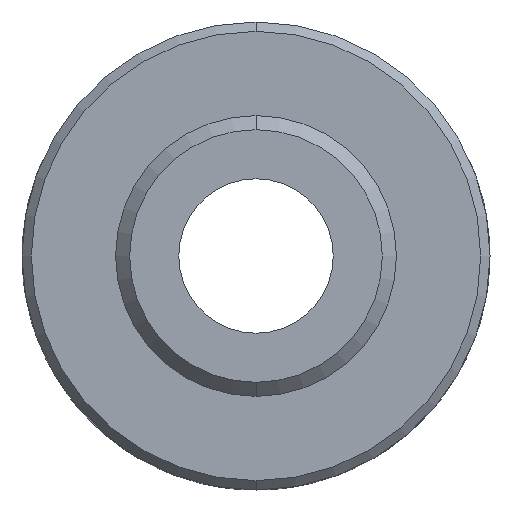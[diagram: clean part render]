
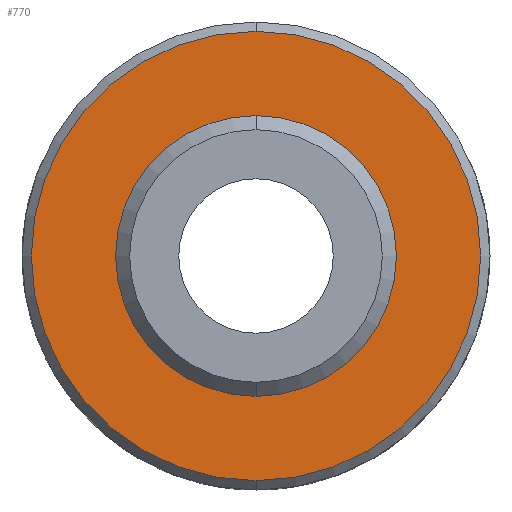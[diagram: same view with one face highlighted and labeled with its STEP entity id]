
A CAD part, front view. The second image highlights one B-rep face of the part: STEP entity #770.
In plain terms, the highlighted planar face has unit normal (0, -1, 0).
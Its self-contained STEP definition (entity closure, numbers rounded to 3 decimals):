
#8 = PLANE ( 'NONE',  #55 ) ;
#51 = CARTESIAN_POINT ( 'NONE',  ( 0., 0., 0. ) ) ;
#55 = AXIS2_PLACEMENT_3D ( 'NONE', #482, #739, #477 ) ;
#74 = CIRCLE ( 'NONE', #523, 4.8 ) ;
#131 = CIRCLE ( 'NONE', #536, 2.5 ) ;
#140 = VERTEX_POINT ( 'NONE', #720 ) ;
#142 = FACE_BOUND ( 'NONE', #864, .T. ) ;
#178 = VERTEX_POINT ( 'NONE', #592 ) ;
#185 = EDGE_CURVE ( 'NONE', #140, #642, #131, .T. ) ;
#225 = EDGE_CURVE ( 'NONE', #178, #323, #481, .T. ) ;
#250 = ORIENTED_EDGE ( 'NONE', *, *, #185, .F. ) ;
#260 = DIRECTION ( 'NONE',  ( 0., -1., 0. ) ) ;
#264 = DIRECTION ( 'NONE',  ( 0., -1., 0. ) ) ;
#287 = ORIENTED_EDGE ( 'NONE', *, *, #225, .T. ) ;
#296 = CIRCLE ( 'NONE', #411, 2.5 ) ;
#323 = VERTEX_POINT ( 'NONE', #429 ) ;
#411 = AXIS2_PLACEMENT_3D ( 'NONE', #638, #633, #626 ) ;
#429 = CARTESIAN_POINT ( 'NONE',  ( 0., 0., -4.8 ) ) ;
#452 = CARTESIAN_POINT ( 'NONE',  ( 0., 0., 0. ) ) ;
#457 = DIRECTION ( 'NONE',  ( 0., -1., 0. ) ) ;
#476 = ORIENTED_EDGE ( 'NONE', *, *, #629, .T. ) ;
#477 = DIRECTION ( 'NONE',  ( 0., 0., 1. ) ) ;
#481 = CIRCLE ( 'NONE', #736, 4.8 ) ;
#482 = CARTESIAN_POINT ( 'NONE',  ( 0., 0., 0. ) ) ;
#523 = AXIS2_PLACEMENT_3D ( 'NONE', #785, #457, #790 ) ;
#536 = AXIS2_PLACEMENT_3D ( 'NONE', #452, #264, #862 ) ;
#592 = CARTESIAN_POINT ( 'NONE',  ( 0., 0., 4.8 ) ) ;
#613 = FACE_OUTER_BOUND ( 'NONE', #869, .T. ) ;
#626 = DIRECTION ( 'NONE',  ( 0., 0., -1. ) ) ;
#629 = EDGE_CURVE ( 'NONE', #323, #178, #74, .T. ) ;
#633 = DIRECTION ( 'NONE',  ( 0., -1., 0. ) ) ;
#638 = CARTESIAN_POINT ( 'NONE',  ( 0., 0., 0. ) ) ;
#642 = VERTEX_POINT ( 'NONE', #805 ) ;
#676 = ORIENTED_EDGE ( 'NONE', *, *, #853, .F. ) ;
#720 = CARTESIAN_POINT ( 'NONE',  ( 0., 0., -2.5 ) ) ;
#736 = AXIS2_PLACEMENT_3D ( 'NONE', #51, #260, #786 ) ;
#739 = DIRECTION ( 'NONE',  ( 0., 1., 0. ) ) ;
#770 = ADVANCED_FACE ( 'NONE', ( #613, #142 ), #8, .F. ) ;
#785 = CARTESIAN_POINT ( 'NONE',  ( 0., 0., 0. ) ) ;
#786 = DIRECTION ( 'NONE',  ( 0., 0., 1. ) ) ;
#790 = DIRECTION ( 'NONE',  ( 0., 0., 1. ) ) ;
#805 = CARTESIAN_POINT ( 'NONE',  ( 0., 0., 2.5 ) ) ;
#853 = EDGE_CURVE ( 'NONE', #642, #140, #296, .T. ) ;
#862 = DIRECTION ( 'NONE',  ( 0., 0., -1. ) ) ;
#864 = EDGE_LOOP ( 'NONE', ( #676, #250 ) ) ;
#869 = EDGE_LOOP ( 'NONE', ( #287, #476 ) ) ;
